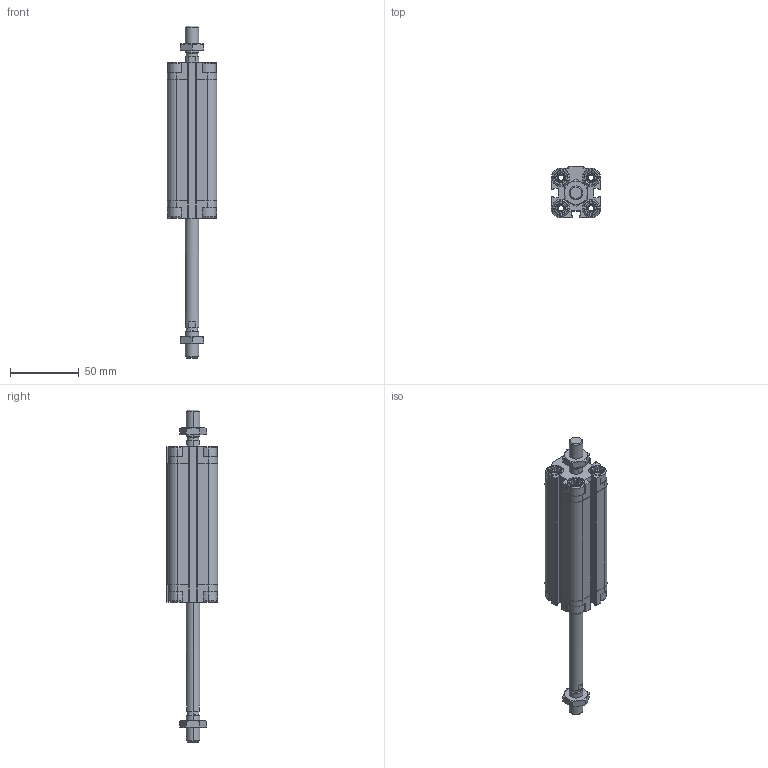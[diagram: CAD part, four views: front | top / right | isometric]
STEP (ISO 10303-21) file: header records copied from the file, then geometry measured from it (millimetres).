
FILE_DESCRIPTION (( 'STEP AP203' ), '1' );
FILE_NAME ('CDVU20-75M-P.STEP', '2020-07-21T15:09:13', ( '' ), ( '' ), 'SwSTEP 2.0', 'SolidWorks 2019', '' );
FILE_SCHEMA (( 'CONFIG_CONTROL_DESIGN' ));
Length unit declared in the file: millimetre
Products named in the file (1): CDVU20-75M-P
Bounding box: 36 x 37.5 x 241 mm (x, y, z)
Volume: 105974.8 mm3; surface area: 51227.4 mm2
Topology: 4 solids, 4 shells, 642 faces, 1674 edges, 1078 vertices
Faces by surface type: plane 374, cylinder 188, cone 64, torus 16
Entity records: 20369 total; most frequent: CARTESIAN_POINT 4535, ORIENTED_EDGE 3340, DIRECTION 3212, EDGE_CURVE 1670, AXIS2_PLACEMENT_3D 1115, VERTEX_POINT 1078, LINE 982, VECTOR 982
